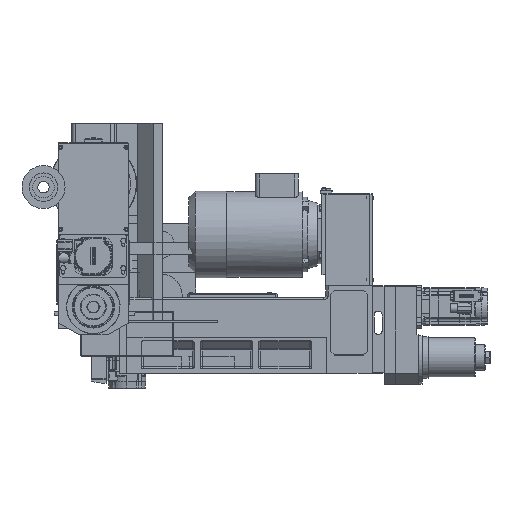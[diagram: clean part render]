
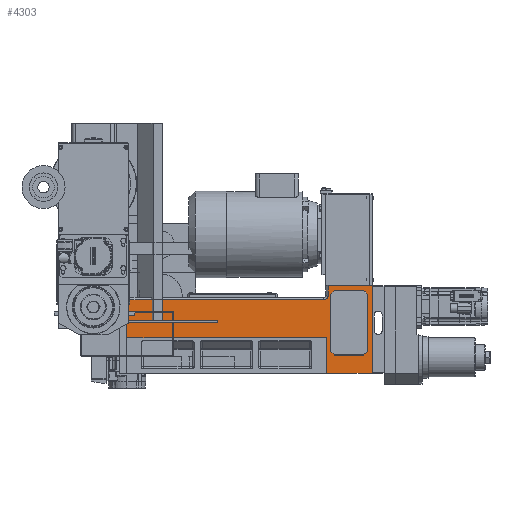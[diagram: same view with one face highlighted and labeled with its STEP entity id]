
A CAD part, left-side view. The second image highlights one B-rep face of the part: STEP entity #4303.
In plain terms, the highlighted planar face has unit normal (-1, 0, 0) as drawn and (0, 1, 0) by its records, which use the part's own axes.
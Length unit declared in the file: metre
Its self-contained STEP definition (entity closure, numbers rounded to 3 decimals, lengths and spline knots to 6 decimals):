
#4303 = ADVANCED_FACE( '', ( #7875 ), #7876, .T. );
#7875 = FACE_OUTER_BOUND( '', #23681, .T. );
#7876 = PLANE( '', #23682 );
#23681 = EDGE_LOOP( '', ( #35147, #35148, #35149, #35150, #35151, #35152, #35153, #35154, #35155 ) );
#23682 = AXIS2_PLACEMENT_3D( '', #35156, #35157, #35158 );
#35147 = ORIENTED_EDGE( '', *, *, #38987, .T. );
#35148 = ORIENTED_EDGE( '', *, *, #38988, .T. );
#35149 = ORIENTED_EDGE( '', *, *, #38989, .T. );
#35150 = ORIENTED_EDGE( '', *, *, #38990, .T. );
#35151 = ORIENTED_EDGE( '', *, *, #38991, .F. );
#35152 = ORIENTED_EDGE( '', *, *, #38992, .F. );
#35153 = ORIENTED_EDGE( '', *, *, #38960, .F. );
#35154 = ORIENTED_EDGE( '', *, *, #38976, .F. );
#35155 = ORIENTED_EDGE( '', *, *, #38993, .T. );
#35156 = CARTESIAN_POINT( '', ( -0.6225, 0.176111, 0. ) );
#35157 = DIRECTION( '', ( 0., 1., 0. ) );
#35158 = DIRECTION( '', ( 1., 0., 0. ) );
#38960 = EDGE_CURVE( '', #44793, #44795, #44796, .T. );
#38976 = EDGE_CURVE( '', #44821, #44793, #44823, .T. );
#38987 = EDGE_CURVE( '', #44843, #44844, #44845, .T. );
#38988 = EDGE_CURVE( '', #44844, #44846, #44847, .T. );
#38989 = EDGE_CURVE( '', #44846, #44848, #44849, .T. );
#38990 = EDGE_CURVE( '', #44848, #44850, #44851, .T. );
#38991 = EDGE_CURVE( '', #44852, #44850, #44853, .T. );
#38992 = EDGE_CURVE( '', #44795, #44852, #44854, .T. );
#38993 = EDGE_CURVE( '', #44821, #44843, #44855, .T. );
#44793 = VERTEX_POINT( '', #57410 );
#44795 = VERTEX_POINT( '', #57413 );
#44796 = LINE( '', #57414, #57415 );
#44821 = VERTEX_POINT( '', #57451 );
#44823 = LINE( '', #57454, #57455 );
#44843 = VERTEX_POINT( '', #57481 );
#44844 = VERTEX_POINT( '', #57482 );
#44845 = LINE( '', #57483, #57484 );
#44846 = VERTEX_POINT( '', #57485 );
#44847 = LINE( '', #57486, #57487 );
#44848 = VERTEX_POINT( '', #57488 );
#44849 = LINE( '', #57489, #57490 );
#44850 = VERTEX_POINT( '', #57491 );
#44851 = LINE( '', #57492, #57493 );
#44852 = VERTEX_POINT( '', #57494 );
#44853 = LINE( '', #57495, #57496 );
#44854 = CIRCLE( '', #57497, 0.011 );
#44855 = LINE( '', #57498, #57499 );
#57410 = CARTESIAN_POINT( '', ( 0.005, 0.176111, 0.188 ) );
#57413 = CARTESIAN_POINT( '', ( -0.4985, 0.176111, 0.188 ) );
#57414 = CARTESIAN_POINT( '', ( -0.435875, 0.176111, 0.188 ) );
#57415 = VECTOR( '', #62441, 1. );
#57451 = CARTESIAN_POINT( '', ( 0.005, 0.176111, 0.091 ) );
#57454 = CARTESIAN_POINT( '', ( 0.005, 0.176111, 0. ) );
#57455 = VECTOR( '', #62463, 1. );
#57481 = CARTESIAN_POINT( '', ( -0.505, 0.176111, 0.091 ) );
#57482 = CARTESIAN_POINT( '', ( -0.505, 0.176111, 0. ) );
#57483 = CARTESIAN_POINT( '', ( -0.505, 0.176111, 0. ) );
#57484 = VECTOR( '', #62482, 1. );
#57485 = CARTESIAN_POINT( '', ( -0.6225, 0.176111, 0. ) );
#57486 = CARTESIAN_POINT( '', ( 0.005, 0.176111, 0. ) );
#57487 = VECTOR( '', #62483, 1. );
#57488 = CARTESIAN_POINT( '', ( -0.6225, 0.176111, 0.224 ) );
#57489 = CARTESIAN_POINT( '', ( -0.6225, 0.176111, 0. ) );
#57490 = VECTOR( '', #62484, 1. );
#57491 = CARTESIAN_POINT( '', ( -0.5095, 0.176111, 0.224 ) );
#57492 = CARTESIAN_POINT( '', ( 0.005, 0.176111, 0.224 ) );
#57493 = VECTOR( '', #62485, 1. );
#57494 = CARTESIAN_POINT( '', ( -0.5095, 0.176111, 0.199 ) );
#57495 = CARTESIAN_POINT( '', ( -0.5095, 0.176111, 0.112 ) );
#57496 = VECTOR( '', #62486, 1. );
#57497 = AXIS2_PLACEMENT_3D( '', #62487, #62488, #62489 );
#57498 = CARTESIAN_POINT( '', ( -0.56375, 0.176111, 0.091 ) );
#57499 = VECTOR( '', #62490, 1. );
#62441 = DIRECTION( '', ( -1., 0., 0. ) );
#62463 = DIRECTION( '', ( 0., 0., 1. ) );
#62482 = DIRECTION( '', ( 0., 0., -1. ) );
#62483 = DIRECTION( '', ( -1., 0., 0. ) );
#62484 = DIRECTION( '', ( 0., 0., 1. ) );
#62485 = DIRECTION( '', ( 1., 0., 0. ) );
#62486 = DIRECTION( '', ( 0., 0., 1. ) );
#62487 = CARTESIAN_POINT( '', ( -0.4985, 0.176111, 0.199 ) );
#62488 = DIRECTION( '', ( 0., 1., 0. ) );
#62489 = DIRECTION( '', ( -0.707, 0., -0.707 ) );
#62490 = DIRECTION( '', ( -1., 0., 0. ) );
